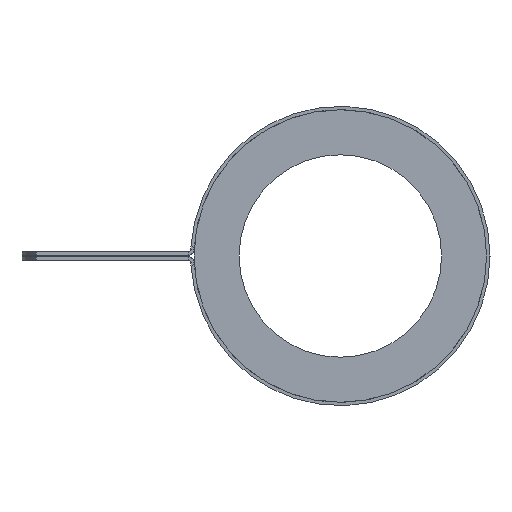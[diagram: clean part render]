
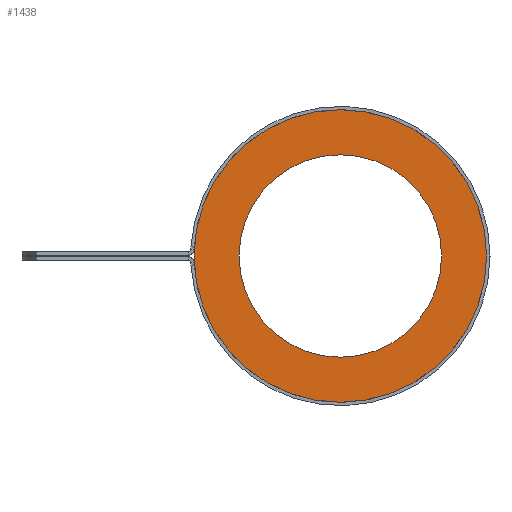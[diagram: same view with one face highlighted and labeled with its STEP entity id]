
A CAD part, left-side view. The second image highlights one B-rep face of the part: STEP entity #1438.
In plain terms, the highlighted planar face has unit normal (-1, 0, 0).
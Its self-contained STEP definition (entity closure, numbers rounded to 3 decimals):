
#23 = VERTEX_POINT ( 'NONE', #750 ) ;
#24 = VERTEX_POINT ( 'NONE', #751 ) ;
#26 = VERTEX_POINT ( 'NONE', #1419 ) ;
#27 = VERTEX_POINT ( 'NONE', #752 ) ;
#293 = EDGE_CURVE ( 'NONE', #26, #27, #1174, .T. ) ;
#351 = AXIS2_PLACEMENT_3D ( 'NONE', #837, #842, #843 ) ;
#366 = EDGE_CURVE ( 'NONE', #23, #24, #988, .T. ) ;
#388 = EDGE_CURVE ( 'NONE', #24, #23, #698, .T. ) ;
#394 = AXIS2_PLACEMENT_3D ( 'NONE', #588, #589, #590 ) ;
#401 = AXIS2_PLACEMENT_3D ( 'NONE', #674, #675, #676 ) ;
#404 = AXIS2_PLACEMENT_3D ( 'NONE', #773, #774, #775 ) ;
#410 = AXIS2_PLACEMENT_3D ( 'NONE', #893, #894, #990 ) ;
#469 = EDGE_CURVE ( 'NONE', #27, #26, #630, .T. ) ;
#588 = CARTESIAN_POINT ( 'NONE',  ( -133.35, 0., 0. ) ) ;
#589 = DIRECTION ( 'NONE',  ( 1., 0., 0. ) ) ;
#590 = DIRECTION ( 'NONE',  ( 0., 0., -1. ) ) ;
#630 = CIRCLE ( 'NONE', #394, 20.637 ) ;
#659 = FACE_OUTER_BOUND ( 'NONE', #1119, .T. ) ;
#663 = FACE_BOUND ( 'NONE', #1123, .T. ) ;
#674 = CARTESIAN_POINT ( 'NONE',  ( -133.35, 0., 0. ) ) ;
#675 = DIRECTION ( 'NONE',  ( 1., 0., 0. ) ) ;
#676 = DIRECTION ( 'NONE',  ( 0., 0., -1. ) ) ;
#698 = CIRCLE ( 'NONE', #401, 14.288 ) ;
#750 = CARTESIAN_POINT ( 'NONE',  ( -133.35, 0., 14.288 ) ) ;
#751 = CARTESIAN_POINT ( 'NONE',  ( -133.35, 0., -14.288 ) ) ;
#752 = CARTESIAN_POINT ( 'NONE',  ( -133.35, 0., 20.637 ) ) ;
#773 = CARTESIAN_POINT ( 'NONE',  ( -133.35, 0., 0. ) ) ;
#774 = DIRECTION ( 'NONE',  ( 1., 0., 0. ) ) ;
#775 = DIRECTION ( 'NONE',  ( 0., 0., -1. ) ) ;
#835 = PLANE ( 'NONE',  #351 ) ;
#837 = CARTESIAN_POINT ( 'NONE',  ( -133.35, 0., 0. ) ) ;
#842 = DIRECTION ( 'NONE',  ( 1., 0., 0. ) ) ;
#843 = DIRECTION ( 'NONE',  ( 0., 0., -1. ) ) ;
#893 = CARTESIAN_POINT ( 'NONE',  ( -133.35, 0., 0. ) ) ;
#894 = DIRECTION ( 'NONE',  ( 1., 0., 0. ) ) ;
#988 = CIRCLE ( 'NONE', #404, 14.288 ) ;
#990 = DIRECTION ( 'NONE',  ( 0., 0., -1. ) ) ;
#1119 = EDGE_LOOP ( 'NONE', ( #1134, #1135 ) ) ;
#1123 = EDGE_LOOP ( 'NONE', ( #1136, #1137 ) ) ;
#1134 = ORIENTED_EDGE ( 'NONE', *, *, #469, .F. ) ;
#1135 = ORIENTED_EDGE ( 'NONE', *, *, #293, .F. ) ;
#1136 = ORIENTED_EDGE ( 'NONE', *, *, #366, .T. ) ;
#1137 = ORIENTED_EDGE ( 'NONE', *, *, #388, .T. ) ;
#1174 = CIRCLE ( 'NONE', #410, 20.637 ) ;
#1419 = CARTESIAN_POINT ( 'NONE',  ( -133.35, 0., -20.637 ) ) ;
#1438 = ADVANCED_FACE ( 'NONE', ( #659, #663 ), #835, .F. ) ;
